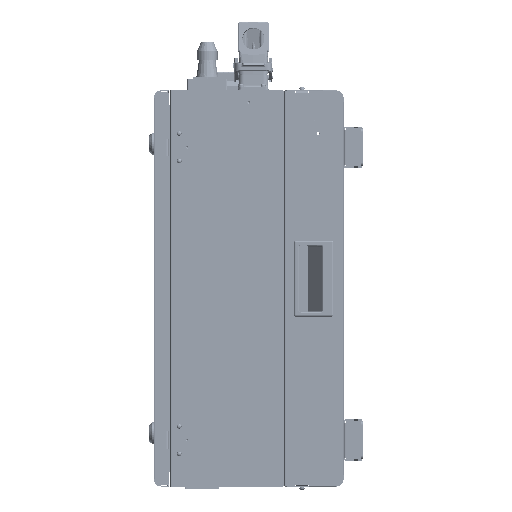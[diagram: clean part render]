
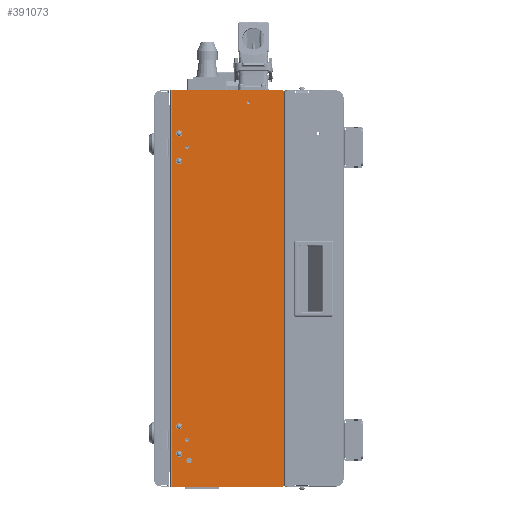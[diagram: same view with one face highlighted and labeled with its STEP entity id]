
A CAD part, left-side view. The second image highlights one B-rep face of the part: STEP entity #391073.
In plain terms, the highlighted planar face has unit normal (-1, 0, 0).
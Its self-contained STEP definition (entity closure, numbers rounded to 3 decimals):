
#376671=DIRECTION('',(0.,0.,1.));
#376672=VECTOR('',#376671,572.6);
#376673=CARTESIAN_POINT('',(-222.5,1.2,-286.3));
#376674=LINE('',#376673,#376672);
#377042=DIRECTION('',(0.,1.,0.));
#377043=VECTOR('',#377042,1.2);
#377044=CARTESIAN_POINT('',(-222.5,1.2,286.3));
#377045=LINE('',#377044,#377043);
#379519=DIRECTION('',(0.,0.,1.));
#379520=VECTOR('',#379519,1.2);
#379521=CARTESIAN_POINT('',(-222.5,2.4,286.3));
#379522=LINE('',#379521,#379520);
#379526=CARTESIAN_POINT('',(-222.5,2.4,287.5));
#379555=DIRECTION('',(0.,0.,1.));
#379556=VECTOR('',#379555,1.2);
#379557=CARTESIAN_POINT('',(-222.5,2.4,-287.5));
#379558=LINE('',#379557,#379556);
#379570=CARTESIAN_POINT('',(-222.5,152.75,185.));
#379571=DIRECTION('',(-1.,0.,0.));
#379572=DIRECTION('',(0.,0.,-1.));
#379573=AXIS2_PLACEMENT_3D('',#379570,#379571,#379572);
#379578=CARTESIAN_POINT('',(-222.5,152.75,185.));
#379579=DIRECTION('',(-1.,0.,0.));
#379580=DIRECTION('',(0.,0.,1.));
#379581=AXIS2_PLACEMENT_3D('',#379578,#379579,#379580);
#379586=CARTESIAN_POINT('',(-222.5,152.75,-200.));
#379587=DIRECTION('',(-1.,0.,0.));
#379588=DIRECTION('',(0.,0.,-1.));
#379589=AXIS2_PLACEMENT_3D('',#379586,#379587,#379588);
#379594=CARTESIAN_POINT('',(-222.5,152.75,-200.));
#379595=DIRECTION('',(-1.,0.,0.));
#379596=DIRECTION('',(0.,0.,1.));
#379597=AXIS2_PLACEMENT_3D('',#379594,#379595,#379596);
#379602=CARTESIAN_POINT('',(-222.5,152.75,-240.));
#379603=DIRECTION('',(-1.,0.,0.));
#379604=DIRECTION('',(0.,0.,-1.));
#379605=AXIS2_PLACEMENT_3D('',#379602,#379603,#379604);
#379610=CARTESIAN_POINT('',(-222.5,152.75,-240.));
#379611=DIRECTION('',(-1.,0.,0.));
#379612=DIRECTION('',(0.,0.,1.));
#379613=AXIS2_PLACEMENT_3D('',#379610,#379611,#379612);
#379618=CARTESIAN_POINT('',(-222.5,141.25,-220.));
#379619=DIRECTION('',(-1.,0.,0.));
#379620=DIRECTION('',(0.,0.,-1.));
#379621=AXIS2_PLACEMENT_3D('',#379618,#379619,#379620);
#379626=CARTESIAN_POINT('',(-222.5,141.25,-220.));
#379627=DIRECTION('',(-1.,0.,0.));
#379628=DIRECTION('',(0.,0.,1.));
#379629=AXIS2_PLACEMENT_3D('',#379626,#379627,#379628);
#379634=CARTESIAN_POINT('',(-222.5,141.25,205.));
#379635=DIRECTION('',(-1.,0.,0.));
#379636=DIRECTION('',(0.,0.,-1.));
#379637=AXIS2_PLACEMENT_3D('',#379634,#379635,#379636);
#379642=CARTESIAN_POINT('',(-222.5,141.25,205.));
#379643=DIRECTION('',(-1.,0.,0.));
#379644=DIRECTION('',(0.,0.,1.));
#379645=AXIS2_PLACEMENT_3D('',#379642,#379643,#379644);
#379650=CARTESIAN_POINT('',(-222.5,138.,-250.));
#379651=DIRECTION('',(-1.,0.,0.));
#379652=DIRECTION('',(0.,0.,-1.));
#379653=AXIS2_PLACEMENT_3D('',#379650,#379651,#379652);
#379658=CARTESIAN_POINT('',(-222.5,138.,-250.));
#379659=DIRECTION('',(-1.,0.,0.));
#379660=DIRECTION('',(0.,0.,1.));
#379661=AXIS2_PLACEMENT_3D('',#379658,#379659,#379660);
#379666=CARTESIAN_POINT('',(-222.5,152.75,225.));
#379667=DIRECTION('',(-1.,0.,0.));
#379668=DIRECTION('',(0.,0.,-1.));
#379669=AXIS2_PLACEMENT_3D('',#379666,#379667,#379668);
#379674=CARTESIAN_POINT('',(-222.5,152.75,225.));
#379675=DIRECTION('',(-1.,0.,0.));
#379676=DIRECTION('',(0.,0.,1.));
#379677=AXIS2_PLACEMENT_3D('',#379674,#379675,#379676);
#379682=CARTESIAN_POINT('',(-222.5,52.,270.));
#379683=DIRECTION('',(-1.,0.,0.));
#379684=DIRECTION('',(0.,0.,-1.));
#379685=AXIS2_PLACEMENT_3D('',#379682,#379683,#379684);
#379690=CARTESIAN_POINT('',(-222.5,52.,270.));
#379691=DIRECTION('',(-1.,0.,0.));
#379692=DIRECTION('',(0.,0.,1.));
#379693=AXIS2_PLACEMENT_3D('',#379690,#379691,#379692);
#379698=DIRECTION('',(0.,1.,0.));
#379699=VECTOR('',#379698,1.2);
#379700=CARTESIAN_POINT('',(-222.5,1.2,-286.3));
#379701=LINE('',#379700,#379699);
#379705=DIRECTION('',(0.,1.,0.));
#379706=VECTOR('',#379705,161.4);
#379707=CARTESIAN_POINT('',(-222.5,2.4,-287.5));
#379708=LINE('',#379707,#379706);
#380089=DIRECTION('',(0.,0.,-1.));
#380090=VECTOR('',#380089,575.);
#380091=CARTESIAN_POINT('',(-222.5,163.8,287.5));
#380092=LINE('',#380091,#380090);
#380770=DIRECTION('',(0.,1.,0.));
#380771=VECTOR('',#380770,161.4);
#380772=CARTESIAN_POINT('',(-222.5,2.4,287.5));
#380773=LINE('',#380772,#380771);
#386428=VERTEX_POINT('',#379526);
#386469=CARTESIAN_POINT('',(-222.5,163.8,287.5));
#386470=VERTEX_POINT('',#386469);
#386471=CARTESIAN_POINT('',(-222.5,163.8,-287.5));
#386472=VERTEX_POINT('',#386471);
#386473=CARTESIAN_POINT('',(-222.5,2.4,-287.5));
#386474=VERTEX_POINT('',#386473);
#386475=CARTESIAN_POINT('',(-222.5,152.75,182.5));
#386476=CARTESIAN_POINT('',(-222.5,152.75,187.5));
#386477=VERTEX_POINT('',#386475);
#386478=VERTEX_POINT('',#386476);
#386479=CARTESIAN_POINT('',(-222.5,152.75,-202.5));
#386480=CARTESIAN_POINT('',(-222.5,152.75,-197.5));
#386481=VERTEX_POINT('',#386479);
#386482=VERTEX_POINT('',#386480);
#386483=CARTESIAN_POINT('',(-222.5,152.75,-242.5));
#386484=CARTESIAN_POINT('',(-222.5,152.75,-237.5));
#386485=VERTEX_POINT('',#386483);
#386486=VERTEX_POINT('',#386484);
#386487=CARTESIAN_POINT('',(-222.5,141.25,-222.5));
#386488=CARTESIAN_POINT('',(-222.5,141.25,-217.5));
#386489=VERTEX_POINT('',#386487);
#386490=VERTEX_POINT('',#386488);
#386491=CARTESIAN_POINT('',(-222.5,141.25,202.5));
#386492=CARTESIAN_POINT('',(-222.5,141.25,207.5));
#386493=VERTEX_POINT('',#386491);
#386494=VERTEX_POINT('',#386492);
#386495=CARTESIAN_POINT('',(-222.5,138.,-252.));
#386496=CARTESIAN_POINT('',(-222.5,138.,-248.));
#386497=VERTEX_POINT('',#386495);
#386498=VERTEX_POINT('',#386496);
#386499=CARTESIAN_POINT('',(-222.5,152.75,222.5));
#386500=CARTESIAN_POINT('',(-222.5,152.75,227.5));
#386501=VERTEX_POINT('',#386499);
#386502=VERTEX_POINT('',#386500);
#386503=CARTESIAN_POINT('',(-222.5,52.,267.5));
#386504=CARTESIAN_POINT('',(-222.5,52.,272.5));
#386505=VERTEX_POINT('',#386503);
#386506=VERTEX_POINT('',#386504);
#386803=CARTESIAN_POINT('',(-222.5,1.2,-286.3));
#386804=CARTESIAN_POINT('',(-222.5,1.2,286.3));
#386805=VERTEX_POINT('',#386803);
#386806=VERTEX_POINT('',#386804);
#386829=CARTESIAN_POINT('',(-222.5,2.4,-286.3));
#386830=VERTEX_POINT('',#386829);
#386831=CARTESIAN_POINT('',(-222.5,2.4,286.3));
#386832=VERTEX_POINT('',#386831);
#391007=CARTESIAN_POINT('',(-222.5,2.4,-285.1));
#391008=DIRECTION('',(1.,0.,0.));
#391009=DIRECTION('',(0.,1.,0.));
#391010=AXIS2_PLACEMENT_3D('',#391007,#391008,#391009);
#391011=PLANE('',#391010);
#391012=ORIENTED_EDGE('',*,*,#390994,.F.);
#391013=ORIENTED_EDGE('',*,*,#388854,.F.);
#391014=ORIENTED_EDGE('',*,*,#387728,.F.);
#391015=ORIENTED_EDGE('',*,*,#387617,.T.);
#391016=ORIENTED_EDGE('',*,*,#391001,.F.);
#391018=ORIENTED_EDGE('',*,*,#391017,.T.);
#391020=ORIENTED_EDGE('',*,*,#391019,.F.);
#391022=ORIENTED_EDGE('',*,*,#391021,.F.);
#391023=EDGE_LOOP('',(#391012,#391013,#391014,#391015,#391016,#391018,#391020,
#391022));
#391024=FACE_OUTER_BOUND('',#391023,.F.);
#391026=ORIENTED_EDGE('',*,*,#391025,.T.);
#391028=ORIENTED_EDGE('',*,*,#391027,.T.);
#391029=EDGE_LOOP('',(#391026,#391028));
#391030=FACE_BOUND('',#391029,.F.);
#391032=ORIENTED_EDGE('',*,*,#391031,.T.);
#391034=ORIENTED_EDGE('',*,*,#391033,.T.);
#391035=EDGE_LOOP('',(#391032,#391034));
#391036=FACE_BOUND('',#391035,.F.);
#391038=ORIENTED_EDGE('',*,*,#391037,.T.);
#391040=ORIENTED_EDGE('',*,*,#391039,.T.);
#391041=EDGE_LOOP('',(#391038,#391040));
#391042=FACE_BOUND('',#391041,.F.);
#391044=ORIENTED_EDGE('',*,*,#391043,.T.);
#391046=ORIENTED_EDGE('',*,*,#391045,.T.);
#391047=EDGE_LOOP('',(#391044,#391046));
#391048=FACE_BOUND('',#391047,.F.);
#391050=ORIENTED_EDGE('',*,*,#391049,.T.);
#391052=ORIENTED_EDGE('',*,*,#391051,.T.);
#391053=EDGE_LOOP('',(#391050,#391052));
#391054=FACE_BOUND('',#391053,.F.);
#391056=ORIENTED_EDGE('',*,*,#391055,.T.);
#391058=ORIENTED_EDGE('',*,*,#391057,.T.);
#391059=EDGE_LOOP('',(#391056,#391058));
#391060=FACE_BOUND('',#391059,.F.);
#391062=ORIENTED_EDGE('',*,*,#391061,.T.);
#391064=ORIENTED_EDGE('',*,*,#391063,.T.);
#391065=EDGE_LOOP('',(#391062,#391064));
#391066=FACE_BOUND('',#391065,.F.);
#391068=ORIENTED_EDGE('',*,*,#391067,.T.);
#391070=ORIENTED_EDGE('',*,*,#391069,.T.);
#391071=EDGE_LOOP('',(#391068,#391070));
#391072=FACE_BOUND('',#391071,.F.);
#391073=ADVANCED_FACE('',(#391024,#391030,#391036,#391042,#391048,#391054,
#391060,#391066,#391072),#391011,.F.);
#379574=CIRCLE('',#379573,2.5);
#379582=CIRCLE('',#379581,2.5);
#379590=CIRCLE('',#379589,2.5);
#379598=CIRCLE('',#379597,2.5);
#379606=CIRCLE('',#379605,2.5);
#379614=CIRCLE('',#379613,2.5);
#379622=CIRCLE('',#379621,2.5);
#379630=CIRCLE('',#379629,2.5);
#379638=CIRCLE('',#379637,2.5);
#379646=CIRCLE('',#379645,2.5);
#379654=CIRCLE('',#379653,2.);
#379662=CIRCLE('',#379661,2.);
#379670=CIRCLE('',#379669,2.5);
#379678=CIRCLE('',#379677,2.5);
#379686=CIRCLE('',#379685,2.5);
#379694=CIRCLE('',#379693,2.5);
#387617=EDGE_CURVE('',#386805,#386830,#379701,.T.);
#387728=EDGE_CURVE('',#386805,#386806,#376674,.T.);
#388854=EDGE_CURVE('',#386806,#386832,#377045,.T.);
#390994=EDGE_CURVE('',#386832,#386428,#379522,.T.);
#391001=EDGE_CURVE('',#386474,#386830,#379558,.T.);
#391017=EDGE_CURVE('',#386474,#386472,#379708,.T.);
#391019=EDGE_CURVE('',#386470,#386472,#380092,.T.);
#391021=EDGE_CURVE('',#386428,#386470,#380773,.T.);
#391025=EDGE_CURVE('',#386481,#386482,#379590,.T.);
#391027=EDGE_CURVE('',#386482,#386481,#379598,.T.);
#391031=EDGE_CURVE('',#386485,#386486,#379606,.T.);
#391033=EDGE_CURVE('',#386486,#386485,#379614,.T.);
#391037=EDGE_CURVE('',#386489,#386490,#379622,.T.);
#391039=EDGE_CURVE('',#386490,#386489,#379630,.T.);
#391043=EDGE_CURVE('',#386493,#386494,#379638,.T.);
#391045=EDGE_CURVE('',#386494,#386493,#379646,.T.);
#391049=EDGE_CURVE('',#386497,#386498,#379654,.T.);
#391051=EDGE_CURVE('',#386498,#386497,#379662,.T.);
#391055=EDGE_CURVE('',#386501,#386502,#379670,.T.);
#391057=EDGE_CURVE('',#386502,#386501,#379678,.T.);
#391061=EDGE_CURVE('',#386505,#386506,#379686,.T.);
#391063=EDGE_CURVE('',#386506,#386505,#379694,.T.);
#391067=EDGE_CURVE('',#386477,#386478,#379574,.T.);
#391069=EDGE_CURVE('',#386478,#386477,#379582,.T.);
